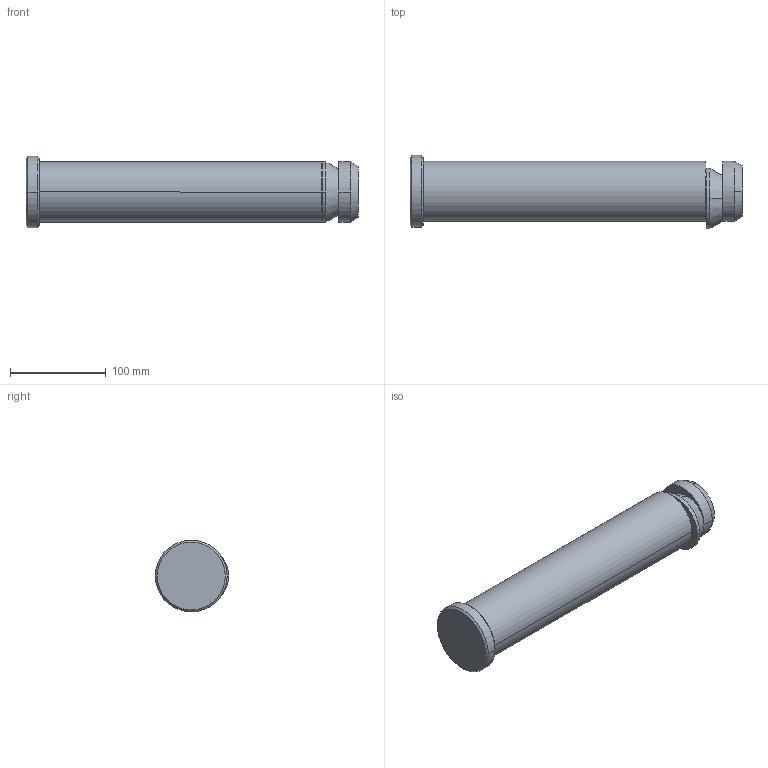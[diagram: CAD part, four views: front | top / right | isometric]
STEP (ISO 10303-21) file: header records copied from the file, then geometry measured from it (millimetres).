
FILE_DESCRIPTION(('CATIA V5 STEP Exchange'),'2;1');
FILE_NAME('C:\Users\Raffaele\Desktop\3D X SITO CF\PERNI -STAFFE SOLLEVAMENTO\395W\395W-063-347.stp','2019-07-05T10:44:30+00:00',('none'),('none'),'CATIA Version 5 Release 20 GA (IN-10)','CATIA V5 STEP AP203','none');
FILE_SCHEMA(('CONFIG_CONTROL_DESIGN'));
Length unit declared in the file: millimetre
Products named in the file (1): 395W-063-347
Bounding box: 347 x 76.51 x 75 mm (x, y, z)
Volume: 1069181.6 mm3; surface area: 87191.5 mm2
Topology: 1 solids, 1 shells, 27 faces, 62 edges, 40 vertices
Faces by surface type: cylinder 12, cone 8, plane 7
Entity records: 895 total; most frequent: CARTESIAN_POINT 245, ORIENTED_EDGE 124, DIRECTION 111, AXIS2_PLACEMENT_3D 63, EDGE_CURVE 62, VERTEX_POINT 40, CIRCLE 35, EDGE_LOOP 32
